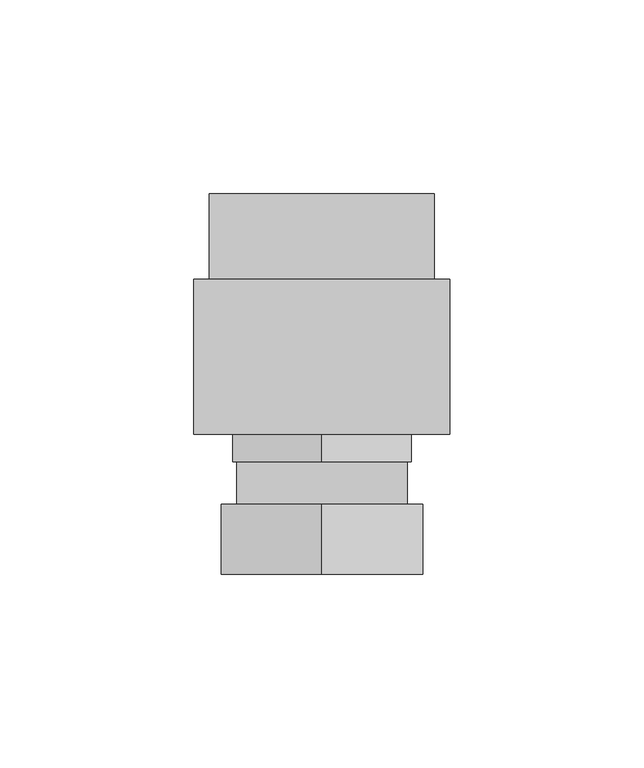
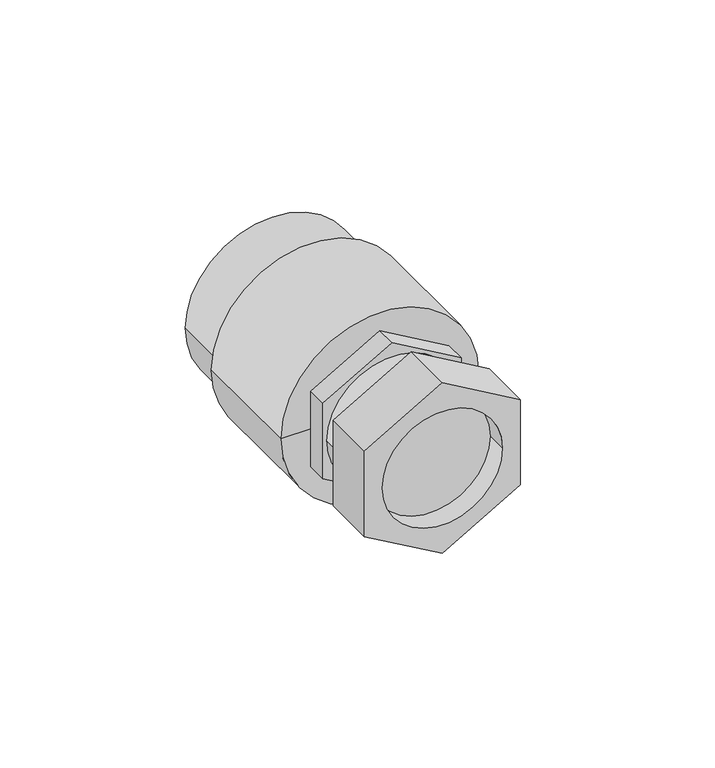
"""IFC4 building model written with IfcOpenShell, lengths in millimetres: pipe fitting geometry, NIRON RED termofusion roscado racor loco : Estándar."""

from ifc_helpers import new_model, si_unit, point, frame, origin, origin_2d, place, context, project, spatial, polyline, circle_curve, trimmed, segment, composite_curve, outline, extrude, source, transform, mapped, element, save
from ifc_brep_helpers import plane_surface, cylinder_surface, revolved_surface, advanced_brep


def pipe_fitting_ff7f4c28(model_context):
    return source(origin(), model_context, "Body", "SolidModel", [
        advanced_brep(
        [(26.0, 9.0, -15.011107), (26.0, 9.0, 15.011107), (0.0, 9.0, 30.022214), (-26.0, 9.0, 15.011107), (-26.0, 9.0, -15.011107), (0.0, 9.0, -30.022214), (20.0, 9.0, 0.0), (-20.0, 9.0, 0.0), (26.0, 27.0, -15.011107), (0.0, 27.0, -30.022214), (-26.0, 27.0, -15.011107), (-26.0, 27.0, 15.011107), (0.0, 27.0, 30.022214), (26.0, 27.0, 15.011107), (-20.0, 16.0570795, 0.0), (20.0, 16.0570795, 0.0)],
        [
            (0, 1),
            (1, 2),
            (2, 3),
            (3, 4),
            (4, 5),
            (5, 0),
            (6, 7, circle_curve(frame((0.0, 9.0, 0.0), z_axis=(0.0, 1.0, 0.0), x_axis=(1.0, 0.0, 0.0)), 20.0)),
            (7, 6, circle_curve(frame((0.0, 9.0, 0.0), z_axis=(0.0, 1.0, 0.0), x_axis=(1.0, 0.0, 0.0)), 20.0)),
            (8, 9),
            (9, 10),
            (10, 11),
            (11, 12),
            (12, 13),
            (13, 8),
            (0, 8),
            (13, 1),
            (12, 2),
            (11, 3),
            (10, 4),
            (9, 5),
            (14, 15, circle_curve(frame((0.0, 16.0570795, 0.0), z_axis=(0.0, -1.0, 0.0), x_axis=(1.0, 0.0, 0.0)), 20.0)),
            (15, 14, circle_curve(frame((0.0, 16.0570795, 0.0), z_axis=(0.0, -1.0, 0.0), x_axis=(1.0, 0.0, 0.0)), 20.0)),
            (14, 7),
            (6, 15),
        ],
        [
            plane_surface(frame((0.0, 9.0, 0.0), z_axis=(0.0, -1.0, 0.0), x_axis=(0.0, 0.0, 1.0))),
            plane_surface(frame((0.0, 27.0, 0.0), z_axis=(0.0, 1.0, 0.0), x_axis=(0.0, 0.0, 1.0))),
            plane_surface(frame((26.0, 9.0, -15.011107), z_axis=(1.0, 0.0, 0.0), x_axis=(0.0, 1.0, 0.0))),
            plane_surface(frame((26.0, 9.0, 15.011107), z_axis=(0.4999999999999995, 0.0, 0.8660254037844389), x_axis=(0.0, 1.0, 0.0))),
            plane_surface(frame((0.0, 9.0, 30.022214), z_axis=(-0.49999999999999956, 0.0, 0.8660254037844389), x_axis=(0.0, 1.0, 0.0))),
            plane_surface(frame((-26.0, 9.0, 15.011107), z_axis=(-1.0, 0.0, 0.0), x_axis=(0.0, 1.0, 0.0))),
            plane_surface(frame((-26.0, 9.0, -15.011107), z_axis=(-0.4999999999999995, 0.0, -0.866025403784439), x_axis=(0.0, 1.0, 0.0))),
            plane_surface(frame((0.0, 9.0, -30.022214), z_axis=(0.49999999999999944, 0.0, -0.866025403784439), x_axis=(0.0, 1.0, 0.0))),
            plane_surface(frame((20.0, 16.0570795, 0.0), z_axis=(0.0, -1.0, 0.0), x_axis=(0.0, 0.0, -1.0))),
            revolved_surface(polyline([(20.0, 9.0, 0.0), (20.0, 16.0570795, 0.0)]), (0.0, 16.0570795, 0.0), (0.0, -1.0, 0.0)),
        ],
        [
            (0, [[1, 2, 3, 4, 5, 6], [7, 8]]),
            (1, [[9, 10, 11, 12, 13, 14]]),
            (2, [[-1, 15, -14, 16]]),
            (3, [[-2, -16, -13, 17]]),
            (4, [[-3, -17, -12, 18]]),
            (5, [[-4, -18, -11, 19]]),
            (6, [[-5, -19, -10, 20]]),
            (7, [[-6, -20, -9, -15]]),
            (8, [[21, 22]]),
            (9, [[-21, 23, -7, 24]]),
            (9, [[-22, -24, -8, -23]]),
        ],
    ),
        extrude(outline(polyline([(-13.2790562, 23.0), (13.2790562, 23.0), (26.5581124, 0.0), (13.2790562, -23.0), (-13.2790562, -23.0), (-26.5581124, 0.0), (-13.2790562, 23.0)])), frame((0.0, 38.0, 0.0), z_axis=(0.0, 1.0, 0.0), x_axis=(0.0, 0.0, 1.0)), (0.0, 0.0, 1.0), 7.0),
        extrude(outline(composite_curve([segment(trimmed(circle_curve(origin_2d(), 22.0), [point((0.0, -22.0))], [point((0.0, 22.0))], False, "CARTESIAN"), True, "CONTINUOUS"), segment(trimmed(circle_curve(origin_2d(), 22.0), [point((0.0, 22.0))], [point((0.0, -22.0))], False, "CARTESIAN"), True, "CONTINUOUS")], self_intersect=False)), frame((0.0, 27.0, 0.0), z_axis=(0.0, 1.0, 0.0), x_axis=(0.0, 0.0, 1.0)), (0.0, 0.0, 1.0), 11.0),
        advanced_brep(
        [(29.0, 107.0, 0.0), (-29.0, 107.0, 0.0), (0.0, 107.0, 0.0), (33.0, 45.0, 0.0), (-33.0, 45.0, 0.0), (-33.0, 85.0, 0.0), (33.0, 85.0, 0.0), (0.0, 45.0, 0.0), (29.0, 85.0, 0.0), (-29.0, 85.0, 0.0)],
        [
            (0, 1, circle_curve(frame((0.0, 107.0, 0.0), z_axis=(0.0, 1.0, 0.0), x_axis=(-1.0, 0.0, 0.0)), 29.0)),
            (1, 2),
            (2, 0),
            (1, 0, circle_curve(frame((0.0, 107.0, 0.0), z_axis=(0.0, 1.0, 0.0), x_axis=(-1.0, 0.0, 0.0)), 29.0)),
            (3, 4, circle_curve(frame((0.0, 45.0, 0.0), z_axis=(0.0, 1.0, 0.0), x_axis=(-1.0, 0.0, 0.0)), 33.0)),
            (4, 5),
            (5, 6, circle_curve(frame((0.0, 85.0, 0.0), z_axis=(0.0, -1.0, 0.0), x_axis=(-1.0, 0.0, 0.0)), 33.0)),
            (6, 3),
            (4, 3, circle_curve(frame((0.0, 45.0, 0.0), z_axis=(0.0, 1.0, 0.0), x_axis=(-1.0, 0.0, 0.0)), 33.0)),
            (6, 5, circle_curve(frame((0.0, 85.0, 0.0), z_axis=(0.0, -1.0, 0.0), x_axis=(-1.0, 0.0, 0.0)), 33.0)),
            (7, 4),
            (3, 7),
            (8, 9, circle_curve(frame((0.0, 85.0, 0.0), z_axis=(0.0, 1.0, 0.0), x_axis=(-1.0, 0.0, 0.0)), 29.0)),
            (9, 1),
            (0, 8),
            (9, 8, circle_curve(frame((0.0, 85.0, 0.0), z_axis=(0.0, 1.0, 0.0), x_axis=(-1.0, 0.0, 0.0)), 29.0)),
            (5, 9),
            (8, 6),
        ],
        [
            plane_surface(frame((0.0, 107.0, 0.0), z_axis=(0.0, 1.0, 0.0), x_axis=(-1.0, 0.0, 0.0))),
            cylinder_surface(frame((0.0, 117.0, 0.0), z_axis=(0.0, -1.0, 0.0), x_axis=(-1.0, 0.0, 0.0)), 33.0),
            plane_surface(frame((0.0, 45.0, 0.0), z_axis=(0.0, -1.0, 0.0), x_axis=(-1.0, 0.0, 0.0))),
            cylinder_surface(frame((0.0, 117.0, 0.0), z_axis=(0.0, -1.0, 0.0), x_axis=(-1.0, 0.0, 0.0)), 29.0),
            plane_surface(frame((0.0, 85.0, 0.0), z_axis=(0.0, 1.0, 0.0), x_axis=(-1.0, 0.0, 0.0))),
        ],
        [
            (0, [[1, 2, 3]]),
            (0, [[4, -3, -2]]),
            (1, [[5, 6, 7, 8]]),
            (1, [[9, -8, 10, -6]]),
            (2, [[11, -5, 12]]),
            (2, [[-12, -9, -11]]),
            (3, [[13, 14, -1, 15]]),
            (3, [[16, -15, -4, -14]]),
            (4, [[-7, 17, -13, 18]]),
            (4, [[-10, -18, -16, -17]]),
        ],
    ),
    ])


if __name__ == "__main__":
    model = new_model("IFC4")
    model_context = context("Model", 3, world=origin())
    ifc_project = project(units=[si_unit("LENGTHUNIT", "METRE", prefix="MILLI")], contexts=[model_context])
    site = spatial("IfcSite", under=ifc_project)
    building = spatial("IfcBuilding", under=site)
    placement = place(None, origin())
    pipe_fitting_shape = pipe_fitting_ff7f4c28(model_context)
    element("IfcPipeFitting", 1, ObjectType="NIRON RED termofusion roscado racor loco : Estándar", at=placement, inside=building, context=model_context, shape_type="MappedRepresentation", body=[
        mapped(pipe_fitting_shape, transform((0.0, 0.0, 0.0), x_axis=(1.0, 0.0, 0.0), y_axis=(0.0, 1.0, 0.0), z_axis=(0.0, 0.0, 1.0))),
    ])
    save(model, "model.ifc")
